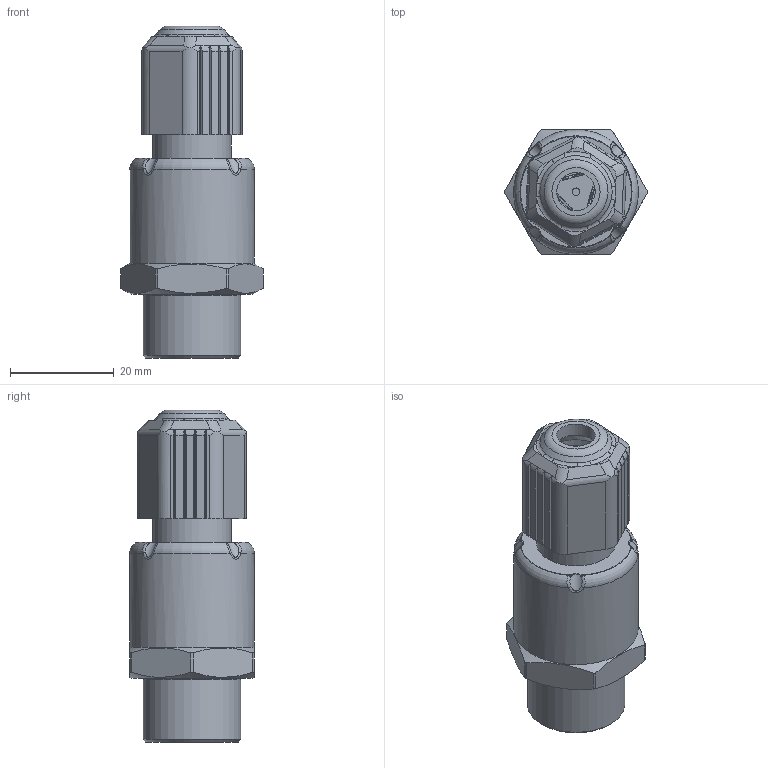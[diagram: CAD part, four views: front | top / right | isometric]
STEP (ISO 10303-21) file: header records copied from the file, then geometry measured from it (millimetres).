
FILE_DESCRIPTION(/* description */ (''),/* implementation_level */ '2;1');
FILE_NAME(/* name */ '560.xxxx0K0000.stp',/* time_stamp */ '2024-04-24T10:03:42+02:00',/* author */ ('uch10269'),/* organization */ (''),/* preprocessor_version */ 'ST-DEVELOPER v19.2',/* originating_system */ 'Autodesk Inventor 2023',/* authorisation */ '');
FILE_SCHEMA (('AUTOMOTIVE_DESIGN { 1 0 10303 214 3 1 1 }'));
Length unit declared in the file: millimetre
Products named in the file (1): Part40
Bounding box: 27.4 x 24 x 63.97 mm (x, y, z)
Volume: 19271.4 mm3; surface area: 8424.9 mm2
Topology: 2 solids, 2 shells, 327 faces, 879 edges, 570 vertices
Faces by surface type: plane 165, cylinder 88, bspline 46, torus 16, cone 12
Full cylindrical faces by diameter (mm): 1.5 x1, 6.4 x1, 7.4 x1, 9.74 x1, 11.2 x1, 14 x1, 15.2 x1, 18.8 x1, 24 x1
Entity records: 11834 total; most frequent: CARTESIAN_POINT 3645, ORIENTED_EDGE 1758, DIRECTION 1663, EDGE_CURVE 879, AXIS2_PLACEMENT_3D 595, VERTEX_POINT 570, LINE 473, VECTOR 473
